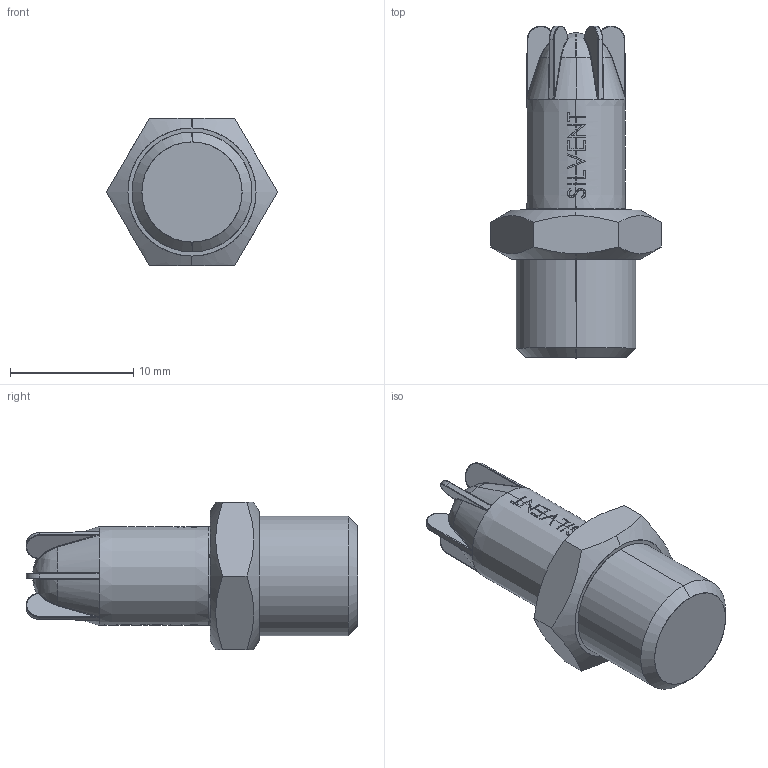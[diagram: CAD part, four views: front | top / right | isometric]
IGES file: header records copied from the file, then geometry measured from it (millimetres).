
Start section: SolidWorks IGES FILE using analytic representation for surfaces
Global section: file name: G:\Silvent\Ritningar\Övrigt\IGES\Silvent 1011.IGS; native system: SolidWorks 2003 by SolidWorks Corporation; preprocessor: Version 5.3; author: Ulf; date: 030923.134528; units: millimetre
Bounding box: 13.86 x 26.93 x 12 mm (x, y, z)
Surface area: 1222.9 mm2 (no closed solid volume)
Topology: 0 solids, 0 shells, 334 faces, 2899 edges, 2887 vertices
Faces by surface type: bspline 284, revolution 50
